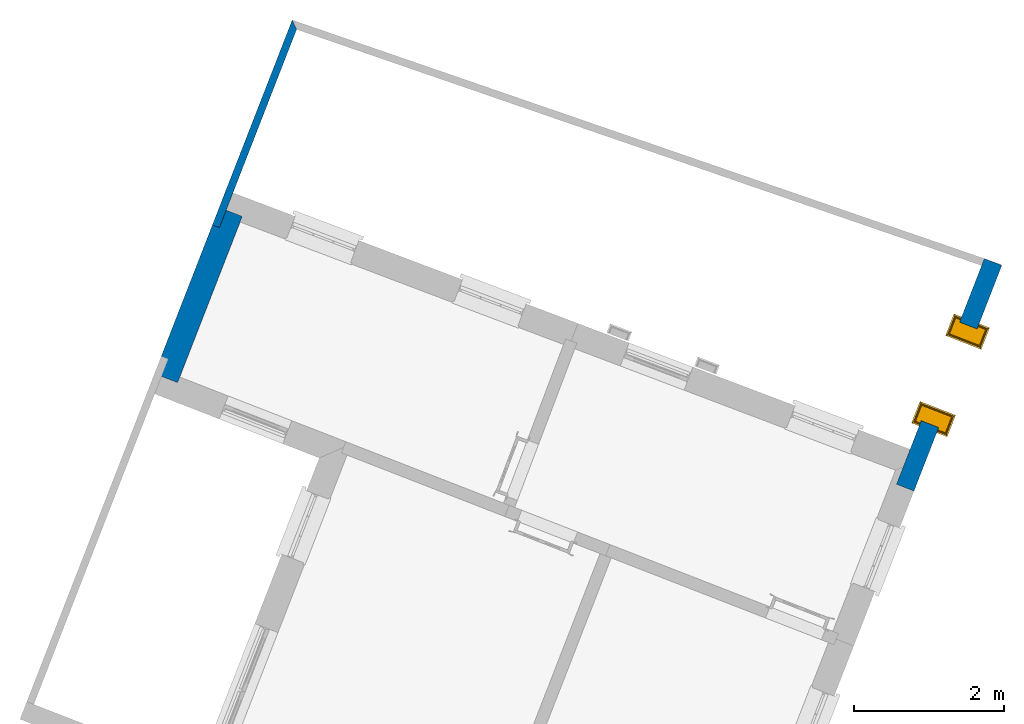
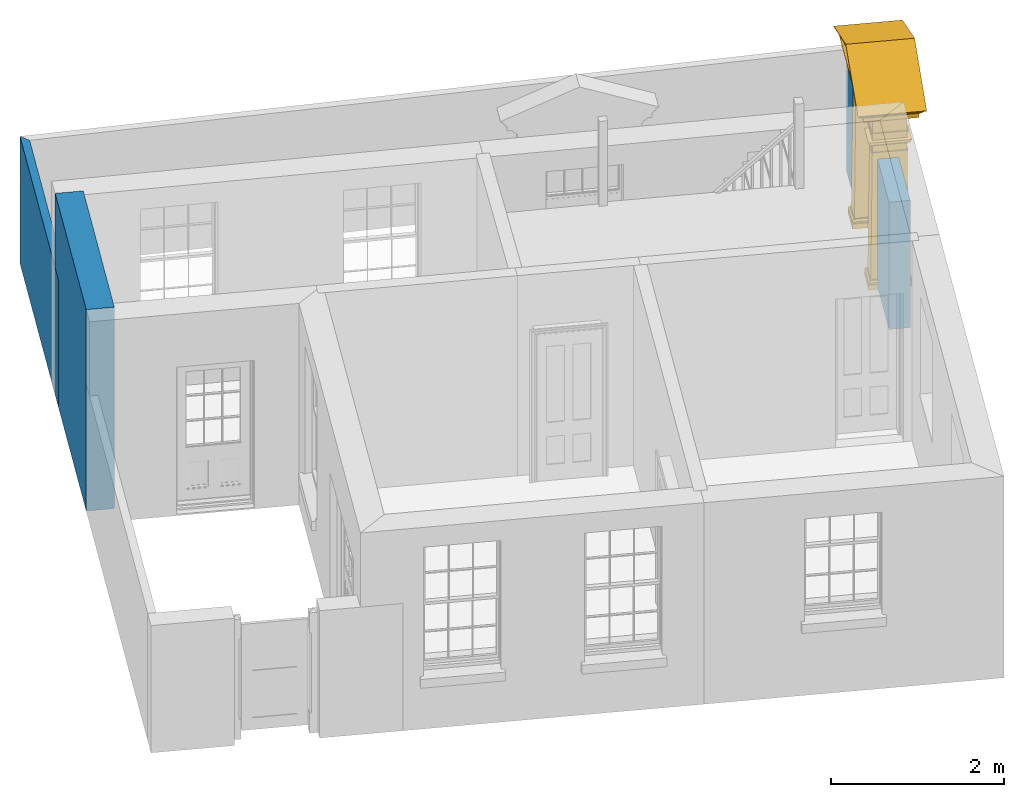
# One storey, part 9 of 10: 3 walls, 1 door, 1 opening.
"""IFC4 building model written with IfcOpenShell, lengths in metres."""

from ifc_helpers import new_model, si_unit, frame, origin, origin_with_axes, place, context, subcontext, project, spatial, polyline, outline, extrude, faceted_brep, source, transform, mapped, material, layer, layer_set, layer_usage, type_object, type_shapes, element, fill, save


model = new_model("IFC4")

# Units and contexts
model_context = context("Model", 3, world=origin_with_axes())
body_context = subcontext(model_context, "Body", "Model", "MODEL_VIEW")
ifc_project = project(units=[si_unit("PLANEANGLEUNIT", "RADIAN"), si_unit("MASSUNIT", "GRAM", prefix="KILO"), si_unit("FORCEUNIT", "NEWTON", prefix="KILO"), si_unit("LENGTHUNIT", "METRE"), si_unit("AREAUNIT", "SQUARE_METRE"), si_unit("VOLUMEUNIT", "CUBIC_METRE")], contexts=[model_context, model_context])

# Sites, building, storey
site_1_placement = place(None, origin_with_axes())
site_1 = spatial("IfcSite", under=ifc_project, at=site_1_placement, Name="Tamar")
site_2_placement = place(site_1_placement, origin_with_axes())
site_2 = spatial("IfcSite", under=site_1, at=site_2_placement, Name="Site plot-8", CompositionType="ELEMENT")
building_placement = place(None, origin_with_axes())
building = spatial("IfcBuilding", under=site_2, at=building_placement, Name="Building plot-8", CompositionType="ELEMENT")
storey_placement = place(None, frame((0.0, 0.0, 26.0), z_axis=(0.0, 0.0, 1.0), x_axis=(1.0, 0.0, 0.0)))
storey = spatial("IfcBuildingStorey", under=building, at=storey_placement, Name="plot-8 0", CompositionType="ELEMENT", Elevation=26.0)

# Walls
ifc_material_1 = material(Name="Masonry")
ifc_layer_1 = layer(ifc_material_1, 0.33, ventilated=False)
ifc_layer_set_1 = layer_set([ifc_layer_1], Name="party_0.08_0.25")
ifc_layer_usage_1 = layer_usage(ifc_layer_set_1, "AXIS2", "POSITIVE", -0.25)
wall_type_1 = type_object("IfcWallType", Name="party_0.08_0.25", PredefinedType="SOLIDWALL", material=ifc_layer_set_1)
wall_1_placement = place(storey_placement, frame((222.554660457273, 312.430296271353, 0.0), z_axis=(0.0, 0.0, 1.0), x_axis=(-0.362808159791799, -0.93186385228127, 0.0)))
element("IfcWall", 1, at=wall_1_placement, inside=storey, type_object=wall_type_1, material=ifc_layer_usage_1, Name="party", context=body_context, shape_type="SweptSolid", body=[
    extrude(outline(polyline([(-1.1525488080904e-14, 0.0800000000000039), (1.90001218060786e-14, -0.249999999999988), (2.37698903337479, -0.249999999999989), (2.37698903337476, 0.0800000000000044), (-1.1525488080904e-14, 0.0800000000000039)])), origin_with_axes(), (0.0, 0.0, 1.0), 2.85),
])
ifc_material_2 = material(Name="Masonry")
ifc_layer_2 = layer(ifc_material_2, 0.1, ventilated=False)
ifc_layer_set_2 = layer_set([ifc_layer_2], Name="fence_-0.15_0.25")
ifc_layer_usage_2 = layer_usage(ifc_layer_set_2, "AXIS2", "POSITIVE", -0.25)
wall_type_2 = type_object("IfcWallType", Name="fence_-0.15_0.25", PredefinedType="SOLIDWALL", material=ifc_layer_set_2)
wall_2_placement = place(storey_placement, frame((223.440368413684, 314.70521541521, 0.0), z_axis=(0.0, 0.0, 1.0), x_axis=(-0.362808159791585, -0.931863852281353, 0.0)))
element("IfcWall", 2, at=wall_2_placement, inside=storey, type_object=wall_type_2, material=ifc_layer_usage_2, Name="fence", context=body_context, shape_type="SweptSolid", body=[
    extrude(outline(polyline([(-0.14421117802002, -0.150000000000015), (-0.240351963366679, -0.250000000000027), (2.69125699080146, -0.249999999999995), (2.69125699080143, -0.150000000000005), (-0.14421117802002, -0.150000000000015)])), origin_with_axes(), (0.0, 0.0, 1.0), 1.8),
])

# Wall, opening, door
ifc_material_3 = material(Name="Masonry")
ifc_layer_3 = layer(ifc_material_3, 0.25, ventilated=False)
ifc_layer_set_3 = layer_set([ifc_layer_3], Name="fence_0_0.25")
ifc_layer_usage_3 = layer_usage(ifc_layer_set_3, "AXIS2", "POSITIVE", -0.25)
wall_type_3 = type_object("IfcWallType", Name="fence_0_0.25", PredefinedType="SOLIDWALL", material=ifc_layer_set_3)
wall_3_placement = place(storey_placement, frame((231.439139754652, 309.065226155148, 0.0), z_axis=(0.0, 0.0, 1.0), x_axis=(0.362808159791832, 0.931863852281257, 0.0)))
wall_3 = element("IfcWall", 3, at=wall_3_placement, inside=storey, type_object=wall_type_3, material=ifc_layer_usage_3, Name="fence", context=body_context, shape_type="SweptSolid", body=[
    extrude(outline(polyline([(-0.250000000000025, -1.1293658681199e-14), (-0.25000000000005, -0.25000000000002), (2.97766640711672, -0.249999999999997), (2.97766640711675, 1.12399709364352e-14), (-0.250000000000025, -1.1293658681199e-14)])), origin_with_axes(), (0.0, 0.0, 1.0), 1.8),
])
opening_placement = place(wall_3_placement, frame((0.658833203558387, 0.0, -0.0100000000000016)))
opening = element("IfcOpeningElement", 4, at=opening_placement, cuts=wall_3, Name="My Opening", ObjectType="Opening", context=body_context, shape_type="SweptSolid", body=[
    extrude(outline(polyline([(0.0, -0.269999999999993), (1.40999999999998, -0.269999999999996), (1.40999999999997, 1.02), (-1.29896093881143e-14, 1.02), (0.0, -0.269999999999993)])), origin_with_axes(), (0.0, 0.0, 1.0), 1.81),
])
door_type = type_object("IfcDoorType", Name="gate", OperationType="SINGLE_SWING_LEFT", PredefinedType="NOTDEFINED")
shared_shape = source(origin(), body_context, "Body", "Brep", [
    faceted_brep([(1.565, 0.25, 2.5), (1.565, -0.21, 2.5), (1.565, -0.21, 2.49), (1.565, 0.25, 2.49), (1.445, -0.09, 2.01), (1.215, -0.09, 2.01), (1.215, -0.09, 2.0), (1.445, -0.09, 2.0), (-0.035, -0.09, 2.180001), (-0.025, -0.08, 2.180001), (-0.025, 0.25, 2.180001), (-0.035, 0.25, 2.180001), (-0.025, -0.08, 2.170001), (-0.035, -0.09, 2.170001), (-0.035, 0.25, 2.170001), (-0.025, 0.25, 2.170001), (1.445, -0.09, 2.180001), (1.435, -0.08, 2.180001), (-0.025, -0.08, 2.37), (-0.025, 0.25, 2.37), (1.435, -0.08, 2.170001), (1.445, -0.09, 2.170001), (-0.025, -0.08, 2.08), (-0.025, 0.25, 2.08), (1.445, 0.25, 2.180001), (1.435, 0.25, 2.180001), (1.435, -0.08, 2.37), (-0.035, -0.09, 2.37), (-0.035, 0.25, 2.37), (1.435, 0.25, 2.37), (1.445, 0.25, 2.170001), (1.435, 0.25, 2.170001), (0.235, -0.08, 2.08), (0.235, 0.25, 2.08), (1.175, 0.25, 2.08), (1.175, -0.08, 2.08), (-0.075, 0.25, 2.08), (-0.075, -0.13, 2.08), (1.445, -0.09, 2.37), (-0.035, -0.09, 2.380001), (-0.035, 0.25, 2.380001), (1.445, 0.25, 2.37), (1.435, -0.08, 2.08), (1.435, 0.25, 2.08), (0.235, 0.38, 2.07), (0.235, 0.38, 2.08), (0.235, 0.33, 2.08), (0.235, -0.13, 2.08), (-0.075, 0.25, 2.07), (-0.075, -0.13, 2.07), (1.445, -0.09, 2.380001), (-0.045, -0.1, 2.39), (-0.045, 0.25, 2.39), (1.455, 0.25, 2.39), (1.455, -0.1, 2.39), (1.445, 0.25, 2.380001), (1.485, -0.13, 2.08), (1.485, 0.25, 2.08), (0.235, -0.13, 2.07), (1.175, -0.13, 2.08), (-0.065, 0.25, 2.07), (-0.065, -0.12, 2.07), (-0.055, -0.11, 2.39), (-0.055, 0.25, 2.39), (1.465, 0.25, 2.39), (1.465, -0.11, 2.39), (1.485, 0.25, 2.07), (1.485, -0.13, 2.07), (0.225, 0.25, 2.07), (0.235, 0.25, 2.07), (0.225, -0.12, 2.07), (-0.065, 0.25, 2.04), (-0.065, -0.12, 2.04), (1.475, 0.25, 2.07), (1.475, -0.12, 2.07), (1.175, 0.25, 2.07), (1.185, 0.25, 2.07), (1.185, -0.12, 2.07), (1.175, -0.13, 2.07), (1.175, 0.33, 2.08), (1.175, 0.38, 2.07), (-0.055, -0.11, 2.4), (-0.055, 0.25, 2.4), (1.465, 0.25, 2.4), (1.465, -0.11, 2.4), (0.225, 0.25, 2.04), (0.225, -0.12, 2.04), (-0.055, 0.25, 2.04), (-0.055, -0.11, 2.04), (1.475, 0.25, 2.04), (1.475, -0.12, 2.04), (1.185, 0.25, 2.04), (1.195, 0.25, 2.04), (1.195, -0.11, 2.04), (1.185, -0.12, 2.04), (-0.065, -0.12, 2.4), (-0.065, 0.25, 2.4), (-0.085, -0.14, 2.42), (-0.085, 0.25, 2.42), (-0.085, -0.14, 2.43), (-0.085, 0.25, 2.43), (1.495, 0.25, 2.43), (1.495, -0.14, 2.43), (1.495, -0.14, 2.42), (1.495, 0.25, 2.42), (1.475, 0.25, 2.4), (1.475, -0.12, 2.4), (0.215, 0.25, 2.04), (0.215, -0.11, 2.04), (-0.055, 0.25, 2.03), (-0.055, -0.11, 2.03), (0.215, 0.25, 2.03), (0.215, -0.11, 2.03), (1.465, 0.25, 2.04), (1.465, -0.11, 2.04), (1.195, 0.25, 2.03), (1.195, -0.11, 2.03), (1.465, 0.25, 2.03), (1.465, -0.11, 2.03), (-0.145, -0.2, 2.43), (-0.145, 0.25, 2.43), (1.555, 0.25, 2.43), (1.555, -0.2, 2.43), (-0.035, 0.25, 2.01), (-0.035, -0.09, 2.01), (0.195, 0.25, 2.01), (0.195, -0.09, 2.01), (1.215, 0.25, 2.01), (1.445, 0.25, 2.01), (-0.145, -0.2, 2.49), (-0.145, 0.25, 2.49), (1.555, 0.25, 2.49), (1.555, -0.2, 2.49), (-0.035, 0.25, 2.0), (-0.035, -0.09, 2.0), (0.195, 0.25, 2.0), (0.195, -0.09, 2.0), (1.215, 0.25, 2.0), (1.445, 0.25, 2.0), (-0.155, -0.21, 2.49), (-0.155, 0.25, 2.49), (-0.155, -0.21, 2.5), (-0.155, 0.25, 2.5), (-0.165, -0.22, 2.51), (-0.165, 0.25, 2.51), (1.575, 0.25, 2.51), (1.575, -0.22, 2.51), (-0.025, -0.08, 2.0), (-0.025, 0.25, 2.0), (0.185, -0.08, 2.0), (0.185, 0.25, 2.0), (-0.025, 0.25, 1.91), (-0.025, -0.08, 1.91), (0.185, 0.25, 1.91), (0.185, -0.08, 1.91), (1.225, 0.25, 2.0), (1.225, -0.08, 2.0), (1.435, -0.08, 2.0), (1.435, 0.25, 2.0), (1.435, 0.25, 1.91), (1.435, -0.08, 1.91), (1.225, 0.25, 1.91), (1.225, -0.08, 1.91), (-0.175, -0.23, 2.51), (-0.175, 0.25, 2.51), (1.585, 0.25, 2.51), (1.585, -0.23, 2.51), (-0.035, 0.25, 1.91), (-0.035, -0.09, 1.91), (0.195, -0.09, 1.91), (0.195, 0.25, 1.91), (1.445, -0.09, 1.91), (1.445, 0.25, 1.91), (1.215, -0.09, 1.91), (1.215, 0.25, 1.91), (-0.175, -0.23, 2.52), (-0.175, 0.25, 2.52), (1.585, 0.25, 2.52), (1.585, -0.23, 2.52), (-0.035, 0.25, 1.9), (-0.035, -0.09, 1.9), (0.195, 0.25, 1.9), (0.195, -0.09, 1.9), (-0.025, -0.08, 1.9), (-0.025, 0.25, 1.9), (0.185, -0.08, 1.9), (0.185, 0.25, 1.9), (-0.045, 0.25, 0.13), (-0.045, -0.1, 0.13), (0.205, 0.25, 0.13), (0.205, -0.1, 0.13), (1.445, -0.09, 1.9), (1.445, 0.25, 1.9), (1.435, -0.08, 1.9), (1.435, 0.25, 1.9), (1.455, -0.1, 0.13), (1.455, 0.25, 0.13), (1.225, 0.25, 1.9), (1.205, 0.25, 0.13), (1.205, -0.1, 0.13), (1.225, -0.08, 1.9), (1.215, -0.09, 1.9), (1.215, 0.25, 1.9), (-0.185, -0.24, 2.526), (-0.185, 0.25, 2.526), (-0.150858, -0.23, 2.52), (1.560858, -0.23, 2.52), (-0.195, -0.25, 2.551001), (-0.195, 0.25, 2.551001), (-0.223, 0.25, 2.561001), (-0.223, -0.278, 2.561001), (1.633, -0.278, 2.561001), (1.605, -0.25, 2.551001), (1.605, 0.25, 2.551001), (1.633, 0.25, 2.561001), (1.595, 0.25, 2.526), (1.595, -0.24, 2.526), (-0.055, 0.25, 0.13), (-0.055, -0.11, 0.13), (0.215, 0.25, 0.13), (0.215, -0.11, 0.13), (1.465, -0.11, 0.13), (1.465, 0.25, 0.13), (1.195, 0.25, 0.13), (1.195, -0.11, 0.13), (0.705, -0.23, 2.884508), (0.705, -0.24, 2.89465), (0.705, -0.23, 2.874508), (1.486538, -0.21, 2.522499), (-0.076538, -0.21, 2.522499), (0.705, -0.25, 2.923792), (0.705, -0.278, 2.945389), (-0.223, -0.278, 2.571001), (-0.223, 0.25, 2.571001), (1.633, 0.25, 2.571001), (1.633, -0.278, 2.571001), (-0.055, 0.25, 0.12), (-0.055, -0.11, 0.12), (0.215, 0.25, 0.12), (0.215, -0.11, 0.12), (-0.075, 0.25, 0.1), (-0.075, -0.13, 0.1), (0.235, 0.25, 0.1), (0.235, -0.13, 0.1), (1.465, 0.25, 0.12), (1.465, -0.11, 0.12), (1.485, 0.25, 0.1), (1.485, -0.13, 0.1), (1.195, 0.25, 0.12), (1.175, 0.25, 0.1), (1.175, -0.13, 0.1), (1.195, -0.11, 0.12), (-0.13784, -0.22, 2.52125), (0.705, -0.22, 2.870365), (1.51068, -0.21, 2.522499), (1.54784, -0.22, 2.52125), (1.316733, -0.2, 2.523749), (0.093267, -0.2, 2.523749), (-0.10068, -0.21, 2.522499), (0.705, -0.278, 2.955389), (0.705, 0.25, 2.955389), (-0.075, 0.25, 0.08), (-0.075, -0.13, 0.08), (0.235, 0.25, 0.08), (0.235, -0.13, 0.08), (1.485, -0.13, 0.08), (1.485, 0.25, 0.08), (1.175, 0.25, 0.08), (1.175, -0.13, 0.08), (0.705, -0.21, 2.856223), (0.705, -0.21, 2.846222), (1.272495, -0.14, 2.53125), (0.137505, -0.14, 2.53125), (-0.06352, -0.2, 2.523749), (1.47352, -0.2, 2.523749), (-0.065, 0.25, 0.07), (-0.065, -0.12, 0.07), (0.225, 0.25, 0.07), (0.225, -0.12, 0.07), (1.475, 0.25, 0.07), (1.475, -0.12, 0.07), (1.185, 0.25, 0.07), (1.185, -0.12, 0.07), (0.705, -0.2, 2.842082), (1.298626, -0.14, 2.53125), (1.214197, -0.12, 2.533749), (0.195803, -0.12, 2.533749), (0.111374, -0.14, 2.53125), (0.705, -0.2, 2.777137), (-0.075, 0.25, 0.07), (-0.075, -0.13, 0.07), (0.235, -0.13, 0.07), (0.235, 0.25, 0.07), (0.235, -0.13, 0.0), (-0.075, -0.13, 0.0), (-0.075, 0.25, 0.0), (0.235, 0.25, 0.0), (1.485, -0.13, 0.07), (1.485, 0.25, 0.07), (1.485, -0.13, 0.0), (1.175, -0.13, 0.0), (1.175, 0.25, 0.0), (1.485, 0.25, 0.0), (1.175, -0.13, 0.07), (1.175, 0.25, 0.07), (0.705, -0.14, 2.766314), (0.705, -0.14, 2.777137), (0.705, -0.12, 2.744666), (1.185048, -0.11, 2.535), (0.224952, -0.11, 2.535), (0.705, -0.11, 2.744666), (1.211179, -0.11, 2.535), (1.12675, -0.09, 2.537501), (0.28325, -0.09, 2.537501), (0.198821, -0.11, 2.535), (0.705, -0.11, 2.733843), (1.152881, -0.09, 2.537501), (1.18203, -0.1, 2.536251), (0.286268, -0.08, 2.538751), (1.123732, -0.08, 2.538751), (0.22797, -0.1, 2.536251), (0.257119, -0.09, 2.537501), (0.705, -0.1, 2.733843), (0.705, -0.09, 2.712194), (0.705, -0.09, 2.723017), (0.705, -0.08, 2.712194), (-0.155, 0.46, 2.5), (-0.155, 0.46, 2.49), (-0.035, 0.34, 2.01), (0.195, 0.34, 2.01), (0.195, 0.34, 2.0), (-0.035, 0.34, 2.0), (1.445, 0.34, 2.180001), (1.435, 0.33, 2.180001), (1.435, 0.33, 2.170001), (1.445, 0.34, 2.170001), (-0.035, 0.34, 2.180001), (-0.025, 0.33, 2.180001), (1.435, 0.33, 2.37), (-0.025, 0.33, 2.170001), (-0.035, 0.34, 2.170001), (1.435, 0.33, 2.08), (-0.025, 0.33, 2.37), (1.445, 0.34, 2.37), (1.485, 0.38, 2.08), (-0.035, 0.34, 2.37), (1.445, 0.34, 2.380001), (-0.025, 0.33, 2.08), (1.175, 0.38, 2.08), (1.485, 0.38, 2.07), (-0.035, 0.34, 2.380001), (1.455, 0.35, 2.39), (-0.045, 0.35, 2.39), (-0.075, 0.38, 2.08), (1.475, 0.37, 2.07), (1.465, 0.36, 2.39), (-0.055, 0.36, 2.39), (-0.075, 0.38, 2.07), (1.185, 0.37, 2.07), (1.475, 0.37, 2.04), (-0.065, 0.37, 2.07), (0.225, 0.37, 2.07), (1.465, 0.36, 2.4), (-0.055, 0.36, 2.4), (1.185, 0.37, 2.04), (1.465, 0.36, 2.04), (-0.065, 0.37, 2.04), (0.215, 0.36, 2.04), (0.225, 0.37, 2.04), (1.475, 0.37, 2.4), (1.495, 0.39, 2.42), (1.495, 0.39, 2.43), (-0.085, 0.39, 2.43), (-0.085, 0.39, 2.42), (-0.065, 0.37, 2.4), (1.195, 0.36, 2.04), (1.465, 0.36, 2.03), (1.195, 0.36, 2.03), (-0.055, 0.36, 2.04), (0.215, 0.36, 2.03), (-0.055, 0.36, 2.03), (1.555, 0.45, 2.43), (-0.145, 0.45, 2.43), (1.445, 0.34, 2.01), (1.215, 0.34, 2.01), (1.555, 0.45, 2.49), (-0.145, 0.45, 2.49), (1.445, 0.34, 2.0), (1.215, 0.34, 2.0), (1.565, 0.46, 2.49), (1.565, 0.46, 2.5), (1.575, 0.47, 2.51), (-0.165, 0.47, 2.51), (1.435, 0.33, 2.0), (1.225, 0.33, 2.0), (1.435, 0.33, 1.91), (1.225, 0.33, 1.91), (0.185, 0.33, 2.0), (-0.025, 0.33, 2.0), (-0.025, 0.33, 1.91), (0.185, 0.33, 1.91), (1.585, 0.48, 2.51), (-0.175, 0.48, 2.51), (1.445, 0.34, 1.91), (1.215, 0.34, 1.91), (-0.035, 0.34, 1.91), (0.195, 0.34, 1.91), (1.585, 0.48, 2.52), (-0.175, 0.48, 2.52), (1.445, 0.34, 1.9), (1.215, 0.34, 1.9), (1.435, 0.33, 1.9), (1.225, 0.33, 1.9), (1.455, 0.35, 0.13), (1.205, 0.35, 0.13), (-0.035, 0.34, 1.9), (-0.025, 0.33, 1.9), (-0.045, 0.35, 0.13), (0.205, 0.35, 0.13), (0.185, 0.33, 1.9), (0.195, 0.34, 1.9), (1.595, 0.49, 2.526), (1.560858, 0.48, 2.52), (-0.150858, 0.48, 2.52), (1.605, 0.5, 2.551001), (1.633, 0.528, 2.561001), (-0.223, 0.528, 2.561001), (-0.195, 0.5, 2.551001), (-0.185, 0.49, 2.526), (1.465, 0.36, 0.13), (1.195, 0.36, 0.13), (-0.055, 0.36, 0.13), (0.215, 0.36, 0.13), (0.705, 0.48, 2.884508), (0.705, 0.49, 2.89465), (0.705, 0.48, 2.874508), (-0.076538, 0.46, 2.522499), (1.486538, 0.46, 2.522499), (0.705, 0.5, 2.923792), (0.705, 0.528, 2.945389), (1.633, 0.528, 2.571001), (-0.223, 0.528, 2.571001), (1.465, 0.36, 0.12), (1.195, 0.36, 0.12), (1.485, 0.38, 0.1), (1.175, 0.38, 0.1), (-0.055, 0.36, 0.12), (-0.075, 0.38, 0.1), (0.235, 0.38, 0.1), (0.215, 0.36, 0.12), (1.54784, 0.47, 2.52125), (0.705, 0.47, 2.870365), (-0.10068, 0.46, 2.522499), (-0.13784, 0.47, 2.52125), (0.093267, 0.45, 2.523749), (1.316733, 0.45, 2.523749), (1.51068, 0.46, 2.522499), (0.705, 0.528, 2.955389), (1.485, 0.38, 0.08), (1.175, 0.38, 0.08), (-0.075, 0.38, 0.08), (0.235, 0.38, 0.08), (0.705, 0.46, 2.856223), (0.705, 0.46, 2.846222), (0.137505, 0.39, 2.53125), (1.272495, 0.39, 2.53125), (1.47352, 0.45, 2.523749), (-0.06352, 0.45, 2.523749), (1.475, 0.37, 0.07), (1.185, 0.37, 0.07), (-0.065, 0.37, 0.07), (0.225, 0.37, 0.07), (0.705, 0.45, 2.842082), (0.111374, 0.39, 2.53125), (0.195803, 0.37, 2.533749), (1.214197, 0.37, 2.533749), (1.298626, 0.39, 2.53125), (0.705, 0.45, 2.777137), (1.485, 0.38, 0.07), (1.175, 0.38, 0.07), (1.175, 0.38, 0.0), (1.485, 0.38, 0.0), (-0.075, 0.38, 0.07), (-0.075, 0.38, 0.0), (0.235, 0.38, 0.0), (0.235, 0.38, 0.07), (0.705, 0.39, 2.766314), (0.705, 0.39, 2.777137), (0.705, 0.37, 2.744666), (0.224952, 0.36, 2.535), (1.185048, 0.36, 2.535), (0.705, 0.36, 2.744666), (0.198821, 0.36, 2.535), (0.28325, 0.34, 2.537501), (1.12675, 0.34, 2.537501), (1.211179, 0.36, 2.535), (0.705, 0.36, 2.733843), (0.257119, 0.34, 2.537501), (0.22797, 0.35, 2.536251), (1.123732, 0.33, 2.538751), (0.286268, 0.33, 2.538751), (1.18203, 0.35, 2.536251), (1.152881, 0.34, 2.537501), (0.705, 0.35, 2.733843), (0.705, 0.34, 2.723017), (0.705, 0.34, 2.712194), (0.705, 0.33, 2.712194)], [[[0, 1, 2, 3]], [[4, 5, 6, 7]], [[8, 9, 10, 11]], [[12, 13, 14, 15]], [[13, 8, 11, 14]], [[9, 8, 16, 17]], [[9, 18, 19, 10]], [[13, 12, 20, 21]], [[22, 12, 15, 23]], [[8, 13, 21, 16]], [[17, 16, 24, 25]], [[18, 9, 17, 26]], [[27, 28, 19, 18]], [[26, 17, 25, 29]], [[16, 21, 30, 24]], [[21, 20, 31, 30]], [[32, 33, 34, 35]], [[12, 32, 35, 20]], [[12, 22, 32]], [[22, 23, 36, 37]], [[27, 18, 26, 38]], [[39, 40, 28, 27]], [[41, 38, 26, 29]], [[20, 42, 43, 31]], [[44, 45, 46]], [[42, 20, 35]], [[37, 47, 32, 22]], [[36, 48, 49, 37]], [[39, 27, 38, 50]], [[51, 52, 40, 39]], [[53, 54, 50, 55]], [[55, 50, 38, 41]], [[43, 42, 56, 57]], [[32, 47, 58]], [[59, 56, 42, 35]], [[58, 47, 37, 49]], [[48, 60, 61, 49]], [[51, 39, 50, 54]], [[62, 63, 52, 51]], [[64, 65, 54, 53]], [[66, 57, 56, 67]], [[68, 69, 58, 70]], [[60, 71, 72, 61]], [[73, 66, 67, 74]], [[75, 76, 77, 78]], [[34, 79, 80, 75]], [[59, 78, 67, 56]], [[61, 70, 58, 49]], [[62, 51, 54, 65]], [[81, 82, 63, 62]], [[83, 84, 65, 64]], [[85, 68, 70, 86]], [[71, 87, 88, 72]], [[86, 70, 61, 72]], [[77, 74, 67, 78]], [[89, 73, 74, 90]], [[91, 92, 93, 94]], [[76, 91, 94, 77]], [[81, 62, 65, 84]], [[95, 96, 82, 81]], [[97, 98, 96, 95]], [[99, 100, 98, 97]], [[101, 102, 103, 104]], [[105, 106, 84, 83]], [[104, 103, 106, 105]], [[107, 85, 86, 108]], [[87, 109, 110, 88]], [[88, 108, 86, 72]], [[111, 107, 108, 112]], [[77, 94, 90, 74]], [[113, 89, 90, 114]], [[92, 115, 116, 93]], [[93, 114, 90, 94]], [[117, 113, 114, 118]], [[95, 81, 84, 106]], [[97, 95, 106, 103]], [[119, 120, 100, 99]], [[99, 97, 103, 102]], [[121, 122, 102, 101]], [[109, 123, 124, 110]], [[112, 108, 88, 110]], [[125, 111, 112, 126]], [[115, 127, 5, 116]], [[93, 116, 118, 114]], [[128, 117, 118, 4]], [[129, 130, 120, 119]], [[119, 99, 102, 122]], [[131, 132, 122, 121]], [[123, 133, 134, 124]], [[110, 124, 126, 112]], [[135, 125, 126, 136]], [[127, 137, 6, 5]], [[4, 118, 116, 5]], [[138, 128, 4, 7]], [[139, 140, 130, 129]], [[129, 119, 122, 132]], [[141, 142, 140, 139]], [[143, 144, 142, 141]], [[145, 146, 1, 0]], [[3, 2, 132, 131]], [[147, 134, 133, 148]], [[126, 124, 134, 136]], [[135, 136, 149, 150]], [[148, 151, 152, 147]], [[153, 150, 149, 154]], [[6, 137, 155, 156]], [[7, 157, 158, 138]], [[159, 158, 157, 160]], [[155, 161, 162, 156]], [[139, 129, 132, 2]], [[141, 139, 2, 1]], [[163, 164, 144, 143]], [[143, 141, 1, 146]], [[165, 166, 146, 145]], [[147, 149, 136, 134]], [[167, 168, 152, 151]], [[147, 152, 154, 149]], [[154, 169, 170, 153]], [[156, 157, 7, 6]], [[160, 157, 156, 162]], [[171, 172, 159, 160]], [[173, 162, 161, 174]], [[175, 176, 164, 163]], [[163, 143, 146, 166]], [[177, 178, 166, 165]], [[179, 180, 168, 167]], [[154, 152, 168, 169]], [[181, 170, 169, 182]], [[183, 180, 179, 184]], [[181, 182, 185, 186]], [[184, 187, 188, 183]], [[189, 186, 185, 190]], [[160, 162, 173, 171]], [[191, 192, 172, 171]], [[191, 193, 194, 192]], [[193, 195, 196, 194]], [[197, 198, 199, 200]], [[201, 202, 197, 200]], [[174, 202, 201, 173]], [[203, 204, 176, 175]], [[175, 163, 205]], [[163, 166, 206, 205]], [[207, 208, 204, 203]], [[209, 208, 207, 210]], [[211, 212, 213, 214]], [[215, 216, 178, 177]], [[213, 212, 216, 215]], [[178, 206, 166]], [[180, 182, 169, 168]], [[183, 185, 182, 180]], [[187, 217, 218, 188]], [[183, 188, 190, 185]], [[219, 189, 190, 220]], [[201, 191, 171, 173]], [[200, 193, 191, 201]], [[195, 193, 200, 199]], [[195, 221, 222, 196]], [[198, 223, 224, 199]], [[175, 225, 226, 203]], [[225, 175, 205, 227]], [[205, 206, 228, 229]], [[203, 226, 230, 207]], [[207, 230, 231, 210]], [[232, 233, 209, 210]], [[234, 235, 211, 214]], [[231, 230, 212, 211]], [[216, 226, 225, 178]], [[212, 230, 226, 216]], [[227, 206, 178, 225]], [[217, 236, 237, 218]], [[220, 190, 188, 218]], [[238, 219, 220, 239]], [[236, 240, 241, 237]], [[242, 238, 239, 243]], [[221, 195, 199, 224]], [[244, 222, 221, 245]], [[246, 244, 245, 247]], [[248, 249, 250, 251]], [[223, 248, 251, 224]], [[227, 205, 252, 253]], [[254, 228, 206, 255]], [[256, 257, 229, 228]], [[252, 205, 229, 258]], [[231, 259, 232, 210]], [[260, 233, 232, 259]], [[234, 260, 259, 235]], [[259, 231, 211, 235]], [[253, 255, 206, 227]], [[239, 220, 218, 237]], [[261, 262, 241, 240]], [[243, 239, 237, 241]], [[263, 242, 243, 264]], [[224, 251, 245, 221]], [[251, 250, 247, 245]], [[265, 266, 246, 247]], [[249, 267, 268, 250]], [[253, 252, 258, 269]], [[270, 228, 254, 269]], [[269, 254, 255, 253]], [[256, 271, 272, 257]], [[273, 229, 257]], [[274, 256, 228]], [[269, 258, 229, 270]], [[261, 275, 276, 262]], [[264, 243, 241, 262]], [[277, 263, 264, 278]], [[250, 268, 265, 247]], [[279, 266, 265, 280]], [[267, 281, 282, 268]], [[283, 274, 228, 270]], [[284, 271, 256]], [[271, 285, 286, 272]], [[287, 257, 272]], [[270, 229, 273, 283]], [[283, 273, 257, 288]], [[288, 256, 274, 283]], [[289, 290, 276, 275]], [[262, 276, 278, 264]], [[278, 291, 292, 277]], [[293, 294, 295, 296]], [[280, 265, 268, 282]], [[297, 298, 279, 280]], [[299, 300, 301, 302]], [[303, 282, 281, 304]], [[305, 271, 284, 306]], [[306, 284, 256, 288]], [[307, 285, 271, 305]], [[285, 308, 309, 286]], [[305, 272, 286, 307]], [[288, 257, 287, 306]], [[306, 287, 272, 305]], [[289, 295, 294, 290]], [[278, 276, 290, 291]], [[296, 292, 291, 293]], [[290, 294, 293, 291]], [[280, 282, 303, 297]], [[302, 298, 297, 299]], [[299, 297, 303, 300]], [[304, 301, 300, 303]], [[310, 311, 285, 307]], [[311, 308, 285]], [[308, 312, 313, 309]], [[314, 286, 309]], [[307, 286, 314, 310]], [[315, 308, 311, 310]], [[316, 312, 308, 317]], [[318, 313, 312, 319]], [[320, 309, 313, 321]], [[310, 314, 309, 315]], [[322, 317, 308, 315]], [[323, 312, 316, 324]], [[324, 316, 317, 322]], [[323, 313, 318, 325]], [[325, 319, 312, 323]], [[325, 318, 319]], [[315, 309, 320, 322]], [[324, 321, 313, 323]], [[322, 320, 321, 324]], [[142, 326, 327, 140]], [[328, 329, 330, 331]], [[332, 333, 25, 24]], [[334, 335, 30, 31]], [[335, 332, 24, 30]], [[333, 332, 336, 337]], [[333, 338, 29, 25]], [[335, 334, 339, 340]], [[341, 334, 31, 43]], [[332, 335, 340, 336]], [[337, 336, 11, 10]], [[338, 333, 337, 342]], [[343, 41, 29, 338]], [[342, 337, 10, 19]], [[336, 340, 14, 11]], [[340, 339, 15, 14]], [[79, 34, 33, 46]], [[334, 79, 46, 339]], [[334, 341, 79]], [[341, 43, 57, 344]], [[343, 338, 342, 345]], [[346, 55, 41, 343]], [[28, 345, 342, 19]], [[339, 347, 23, 15]], [[35, 34, 75, 78]], [[33, 32, 58, 69]], [[347, 339, 46]], [[344, 348, 79, 341]], [[57, 66, 349, 344]], [[346, 343, 345, 350]], [[351, 53, 55, 346]], [[52, 352, 350, 40]], [[40, 350, 345, 28]], [[23, 347, 353, 36]], [[79, 348, 80]], [[45, 353, 347, 46]], [[80, 348, 344, 349]], [[66, 73, 354, 349]], [[351, 346, 350, 352]], [[355, 64, 53, 351]], [[63, 356, 352, 52]], [[48, 36, 353, 357]], [[76, 75, 80, 358]], [[73, 89, 359, 354]], [[60, 48, 357, 360]], [[69, 68, 361, 44]], [[46, 33, 69, 44]], [[45, 44, 357, 353]], [[354, 358, 80, 349]], [[355, 351, 352, 356]], [[362, 83, 64, 355]], [[82, 363, 356, 63]], [[91, 76, 358, 364]], [[89, 113, 365, 359]], [[364, 358, 354, 359]], [[361, 360, 357, 44]], [[71, 60, 360, 366]], [[85, 107, 367, 368]], [[68, 85, 368, 361]], [[362, 355, 356, 363]], [[369, 105, 83, 362]], [[370, 104, 105, 369]], [[371, 101, 104, 370]], [[100, 372, 373, 98]], [[96, 374, 363, 82]], [[98, 373, 374, 96]], [[92, 91, 364, 375]], [[113, 117, 376, 365]], [[365, 375, 364, 359]], [[115, 92, 375, 377]], [[361, 368, 366, 360]], [[87, 71, 366, 378]], [[107, 111, 379, 367]], [[367, 378, 366, 368]], [[109, 87, 378, 380]], [[369, 362, 363, 374]], [[370, 369, 374, 373]], [[381, 121, 101, 371]], [[371, 370, 373, 372]], [[120, 382, 372, 100]], [[117, 128, 383, 376]], [[377, 375, 365, 376]], [[127, 115, 377, 384]], [[111, 125, 329, 379]], [[367, 379, 380, 378]], [[123, 109, 380, 328]], [[385, 131, 121, 381]], [[381, 371, 372, 382]], [[130, 386, 382, 120]], [[128, 138, 387, 383]], [[376, 383, 384, 377]], [[137, 127, 384, 388]], [[125, 135, 330, 329]], [[328, 380, 379, 329]], [[133, 123, 328, 331]], [[389, 3, 131, 385]], [[385, 381, 382, 386]], [[390, 0, 3, 389]], [[391, 145, 0, 390]], [[144, 392, 326, 142]], [[140, 327, 386, 130]], [[393, 387, 138, 158]], [[384, 383, 387, 388]], [[137, 388, 394, 155]], [[158, 159, 395, 393]], [[161, 155, 394, 396]], [[330, 135, 150, 397]], [[331, 398, 148, 133]], [[151, 148, 398, 399]], [[150, 153, 400, 397]], [[389, 385, 386, 327]], [[390, 389, 327, 326]], [[401, 165, 145, 391]], [[391, 390, 326, 392]], [[164, 402, 392, 144]], [[393, 394, 388, 387]], [[172, 403, 395, 159]], [[393, 395, 396, 394]], [[396, 404, 174, 161]], [[397, 398, 331, 330]], [[399, 398, 397, 400]], [[405, 167, 151, 399]], [[406, 400, 153, 170]], [[407, 177, 165, 401]], [[401, 391, 392, 402]], [[176, 408, 402, 164]], [[192, 409, 403, 172]], [[396, 395, 403, 404]], [[202, 174, 404, 410]], [[411, 409, 192, 194]], [[202, 410, 412, 197]], [[194, 196, 413, 411]], [[198, 197, 412, 414]], [[399, 400, 406, 405]], [[415, 179, 167, 405]], [[415, 416, 184, 179]], [[416, 417, 187, 184]], [[186, 189, 418, 419]], [[420, 181, 186, 419]], [[170, 181, 420, 406]], [[421, 215, 177, 407]], [[407, 401, 422]], [[401, 402, 423, 422]], [[424, 213, 215, 421]], [[214, 213, 424, 425]], [[426, 427, 208, 209]], [[204, 428, 408, 176]], [[208, 427, 428, 204]], [[408, 423, 402]], [[409, 410, 404, 403]], [[411, 412, 410, 409]], [[196, 222, 429, 413]], [[411, 413, 414, 412]], [[223, 198, 414, 430]], [[420, 415, 405, 406]], [[419, 416, 415, 420]], [[417, 416, 419, 418]], [[417, 431, 217, 187]], [[189, 219, 432, 418]], [[407, 433, 434, 421]], [[433, 407, 422, 435]], [[422, 423, 436, 437]], [[421, 434, 438, 424]], [[424, 438, 439, 425]], [[440, 234, 214, 425]], [[233, 441, 426, 209]], [[439, 438, 427, 426]], [[428, 434, 433, 408]], [[427, 438, 434, 428]], [[435, 423, 408, 433]], [[222, 244, 442, 429]], [[430, 414, 413, 429]], [[248, 223, 430, 443]], [[244, 246, 444, 442]], [[249, 248, 443, 445]], [[431, 417, 418, 432]], [[236, 217, 431, 446]], [[240, 236, 446, 447]], [[238, 242, 448, 449]], [[219, 238, 449, 432]], [[435, 422, 450, 451]], [[452, 436, 423, 453]], [[454, 455, 437, 436]], [[450, 422, 437, 456]], [[439, 457, 440, 425]], [[260, 234, 440, 457]], [[233, 260, 457, 441]], [[457, 439, 426, 441]], [[451, 453, 423, 435]], [[443, 430, 429, 442]], [[266, 458, 444, 246]], [[445, 443, 442, 444]], [[267, 249, 445, 459]], [[432, 449, 446, 431]], [[449, 448, 447, 446]], [[460, 261, 240, 447]], [[242, 263, 461, 448]], [[451, 450, 456, 462]], [[463, 436, 452, 462]], [[462, 452, 453, 451]], [[454, 464, 465, 455]], [[466, 437, 455]], [[467, 454, 436]], [[462, 456, 437, 463]], [[266, 279, 468, 458]], [[459, 445, 444, 458]], [[281, 267, 459, 469]], [[448, 461, 460, 447]], [[275, 261, 460, 470]], [[263, 277, 471, 461]], [[472, 467, 436, 463]], [[473, 464, 454]], [[464, 474, 475, 465]], [[476, 455, 465]], [[463, 437, 466, 472]], [[472, 466, 455, 477]], [[477, 454, 467, 472]], [[298, 478, 468, 279]], [[458, 468, 469, 459]], [[469, 479, 304, 281]], [[480, 481, 302, 301]], [[470, 460, 461, 471]], [[482, 289, 275, 470]], [[483, 484, 296, 295]], [[485, 471, 277, 292]], [[486, 464, 473, 487]], [[487, 473, 454, 477]], [[488, 474, 464, 486]], [[474, 489, 490, 475]], [[486, 465, 475, 488]], [[477, 455, 476, 487]], [[487, 476, 465, 486]], [[298, 302, 481, 478]], [[469, 468, 478, 479]], [[301, 304, 479, 480]], [[478, 481, 480, 479]], [[470, 471, 485, 482]], [[295, 289, 482, 483]], [[483, 482, 485, 484]], [[292, 296, 484, 485]], [[491, 492, 474, 488]], [[492, 489, 474]], [[489, 493, 494, 490]], [[495, 475, 490]], [[488, 475, 495, 491]], [[496, 489, 492, 491]], [[497, 493, 489, 498]], [[499, 494, 493, 500]], [[501, 490, 494, 502]], [[491, 495, 490, 496]], [[503, 498, 489, 496]], [[497, 504, 505, 493]], [[504, 497, 498, 503]], [[505, 494, 499, 506]], [[506, 500, 493, 505]], [[506, 499, 500]], [[496, 490, 501, 503]], [[504, 502, 494, 505]], [[503, 501, 502, 504]], [[78, 59, 35]]]),
])
type_shapes(door_type, [shared_shape])
door_placement = place(storey_placement, frame((231.929773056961, 309.581210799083, -0.0100000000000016), z_axis=(0.0, 0.0, 1.0), x_axis=(0.511559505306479, 1.31392803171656, 0.0)))
door = element("IfcDoor", 5, at=door_placement, inside=storey, type_object=door_type, Name="house entrance gate", OverallHeight=1.81, OverallWidth=1.41, context=body_context, shape_type="MappedRepresentation", body=[
    mapped(shared_shape, transform((0.0, 0.0, 0.0), scale=1.0)),
])
fill(opening, door)

save(model, "model.ifc")
